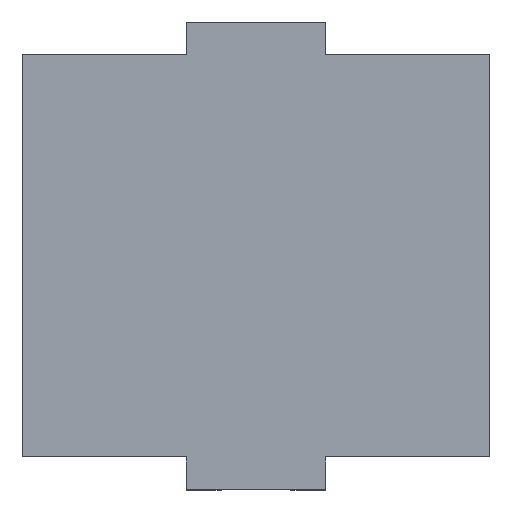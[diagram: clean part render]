
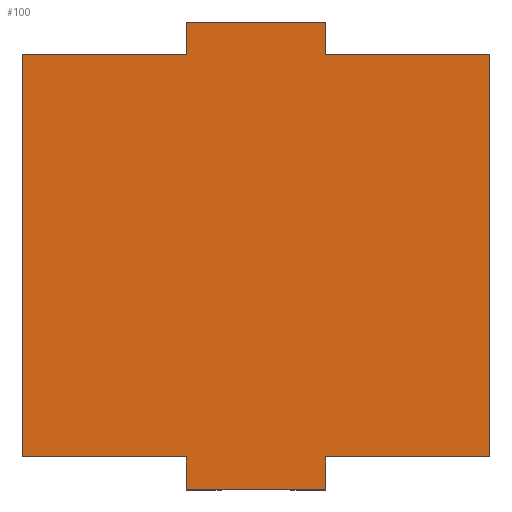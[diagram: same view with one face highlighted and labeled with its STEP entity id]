
A CAD part, top view. The second image highlights one B-rep face of the part: STEP entity #100.
In plain terms, the highlighted planar face has unit normal (0, 0, 1).
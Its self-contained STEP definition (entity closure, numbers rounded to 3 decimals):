
#100 = ADVANCED_FACE( '', ( #200 ), #201, .F. );
#200 = FACE_OUTER_BOUND( '', #297, .T. );
#201 = PLANE( '', #298 );
#297 = EDGE_LOOP( '', ( #535, #536, #537, #538, #539, #540, #541, #542, #543, #544, #545, #546 ) );
#298 = AXIS2_PLACEMENT_3D( '', #547, #548, #549 );
#535 = ORIENTED_EDGE( '', *, *, #710, .T. );
#536 = ORIENTED_EDGE( '', *, *, #688, .T. );
#537 = ORIENTED_EDGE( '', *, *, #681, .T. );
#538 = ORIENTED_EDGE( '', *, *, #642, .T. );
#539 = ORIENTED_EDGE( '', *, *, #694, .T. );
#540 = ORIENTED_EDGE( '', *, *, #711, .F. );
#541 = ORIENTED_EDGE( '', *, *, #674, .F. );
#542 = ORIENTED_EDGE( '', *, *, #662, .T. );
#543 = ORIENTED_EDGE( '', *, *, #612, .T. );
#544 = ORIENTED_EDGE( '', *, *, #617, .T. );
#545 = ORIENTED_EDGE( '', *, *, #632, .F. );
#546 = ORIENTED_EDGE( '', *, *, #699, .T. );
#547 = CARTESIAN_POINT( '', ( 8.5, 28.5, 0. ) );
#548 = DIRECTION( '', ( 0., 0., -1. ) );
#549 = DIRECTION( '', ( -1., 0., 0. ) );
#612 = EDGE_CURVE( '', #730, #731, #732, .T. );
#617 = EDGE_CURVE( '', #731, #739, #740, .T. );
#632 = EDGE_CURVE( '', #764, #739, #766, .T. );
#642 = EDGE_CURVE( '', #782, #783, #784, .T. );
#662 = EDGE_CURVE( '', #814, #730, #815, .T. );
#674 = EDGE_CURVE( '', #814, #831, #832, .T. );
#681 = EDGE_CURVE( '', #841, #782, #842, .T. );
#688 = EDGE_CURVE( '', #851, #841, #852, .T. );
#694 = EDGE_CURVE( '', #783, #859, #861, .T. );
#699 = EDGE_CURVE( '', #764, #866, #868, .T. );
#710 = EDGE_CURVE( '', #866, #851, #880, .T. );
#711 = EDGE_CURVE( '', #831, #859, #881, .T. );
#730 = VERTEX_POINT( '', #904 );
#731 = VERTEX_POINT( '', #905 );
#732 = LINE( '', #906, #907 );
#739 = VERTEX_POINT( '', #917 );
#740 = LINE( '', #918, #919 );
#764 = VERTEX_POINT( '', #953 );
#766 = LINE( '', #956, #957 );
#782 = VERTEX_POINT( '', #980 );
#783 = VERTEX_POINT( '', #981 );
#784 = LINE( '', #982, #983 );
#814 = VERTEX_POINT( '', #1028 );
#815 = LINE( '', #1029, #1030 );
#831 = VERTEX_POINT( '', #1055 );
#832 = LINE( '', #1056, #1057 );
#841 = VERTEX_POINT( '', #1070 );
#842 = LINE( '', #1071, #1072 );
#851 = VERTEX_POINT( '', #1085 );
#852 = LINE( '', #1086, #1087 );
#859 = VERTEX_POINT( '', #1097 );
#861 = LINE( '', #1100, #1101 );
#866 = VERTEX_POINT( '', #1108 );
#868 = LINE( '', #1111, #1112 );
#880 = LINE( '', #1130, #1131 );
#881 = LINE( '', #1132, #1133 );
#904 = CARTESIAN_POINT( '', ( 28.5, -24.5, 0. ) );
#905 = CARTESIAN_POINT( '', ( 28.5, 24.5, 0. ) );
#906 = CARTESIAN_POINT( '', ( 28.5, -24.5, 0. ) );
#907 = VECTOR( '', #1148, 1000. );
#917 = CARTESIAN_POINT( '', ( 8.5, 24.5, 0. ) );
#918 = CARTESIAN_POINT( '', ( 28.5, 24.5, 0. ) );
#919 = VECTOR( '', #1152, 1000. );
#953 = CARTESIAN_POINT( '', ( 8.5, 28.5, 0. ) );
#956 = CARTESIAN_POINT( '', ( 8.5, 28.5, 0. ) );
#957 = VECTOR( '', #1164, 1000. );
#980 = CARTESIAN_POINT( '', ( -28.5, -24.5, 0. ) );
#981 = CARTESIAN_POINT( '', ( -8.5, -24.5, 0. ) );
#982 = CARTESIAN_POINT( '', ( -28.5, -24.5, 0. ) );
#983 = VECTOR( '', #1172, 1000. );
#1028 = CARTESIAN_POINT( '', ( 8.5, -24.5, 0. ) );
#1029 = CARTESIAN_POINT( '', ( 8.5, -24.5, 0. ) );
#1030 = VECTOR( '', #1188, 1000. );
#1055 = CARTESIAN_POINT( '', ( 8.5, -28.5, 0. ) );
#1056 = CARTESIAN_POINT( '', ( 8.5, 28.5, 0. ) );
#1057 = VECTOR( '', #1198, 1000. );
#1070 = CARTESIAN_POINT( '', ( -28.5, 24.5, 0. ) );
#1071 = CARTESIAN_POINT( '', ( -28.5, 24.5, 0. ) );
#1072 = VECTOR( '', #1203, 1000. );
#1085 = CARTESIAN_POINT( '', ( -8.5, 24.5, 0. ) );
#1086 = CARTESIAN_POINT( '', ( -8.5, 24.5, 0. ) );
#1087 = VECTOR( '', #1208, 1000. );
#1097 = CARTESIAN_POINT( '', ( -8.5, -28.5, 0. ) );
#1100 = CARTESIAN_POINT( '', ( -8.5, 28.5, 0. ) );
#1101 = VECTOR( '', #1213, 1000. );
#1108 = CARTESIAN_POINT( '', ( -8.5, 28.5, 0. ) );
#1111 = CARTESIAN_POINT( '', ( 8.5, 28.5, 0. ) );
#1112 = VECTOR( '', #1217, 1000. );
#1130 = CARTESIAN_POINT( '', ( -8.5, 28.5, 0. ) );
#1131 = VECTOR( '', #1224, 1000. );
#1132 = CARTESIAN_POINT( '', ( 8.5, -28.5, 0. ) );
#1133 = VECTOR( '', #1225, 1000. );
#1148 = DIRECTION( '', ( 0., 1., 0. ) );
#1152 = DIRECTION( '', ( -1., 0., 0. ) );
#1164 = DIRECTION( '', ( 0., -1., 0. ) );
#1172 = DIRECTION( '', ( 1., 0., 0. ) );
#1188 = DIRECTION( '', ( 1., 0., 0. ) );
#1198 = DIRECTION( '', ( 0., -1., 0. ) );
#1203 = DIRECTION( '', ( 0., -1., 0. ) );
#1208 = DIRECTION( '', ( -1., 0., 0. ) );
#1213 = DIRECTION( '', ( 0., -1., 0. ) );
#1217 = DIRECTION( '', ( -1., 0., 0. ) );
#1224 = DIRECTION( '', ( 0., -1., 0. ) );
#1225 = DIRECTION( '', ( -1., 0., 0. ) );
